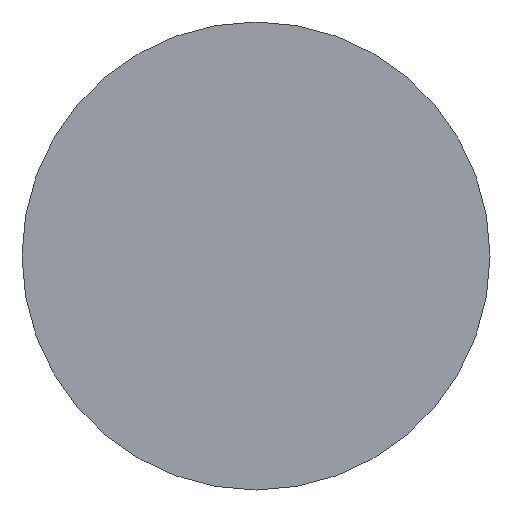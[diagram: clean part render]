
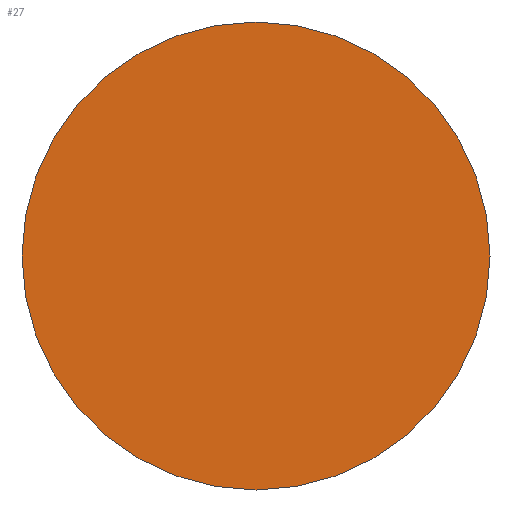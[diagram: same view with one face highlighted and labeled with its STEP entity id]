
A CAD part, front view. The second image highlights one B-rep face of the part: STEP entity #27.
In plain terms, the highlighted planar face has unit normal (0, -1, 0).
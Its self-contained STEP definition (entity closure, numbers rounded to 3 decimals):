
#2=CARTESIAN_POINT('',(-44.099,59.398,39.997));
#3=DIRECTION('',(0.0,-1.0,0.0));
#4=DIRECTION('',(0.0,0.0,-1.0));
#5=AXIS2_PLACEMENT_3D('',#2,#3,#4);
#6=PLANE('',#5);
#7=CARTESIAN_POINT('',(-24.101,59.398,0.0));
#8=VERTEX_POINT('',#7);
#9=CARTESIAN_POINT('',(15.897,59.398,0.0));
#10=VERTEX_POINT('',#9);
#11=CARTESIAN_POINT('',(-4.102,59.398,0.0));
#12=DIRECTION('',(0.0,-1.0,0.0));
#13=DIRECTION('',(-1.0,0.0,0.0));
#14=AXIS2_PLACEMENT_3D('',#11,#12,#13);
#15=CIRCLE('',#14,19.999);
#16=EDGE_CURVE('',#8,#10,#15,.T.);
#17=ORIENTED_EDGE('',*,*,#16,.T.);
#18=CARTESIAN_POINT('',(-4.102,59.398,0.0));
#19=DIRECTION('',(0.0,-1.0,0.0));
#20=DIRECTION('',(-1.0,0.0,0.0));
#21=AXIS2_PLACEMENT_3D('',#18,#19,#20);
#22=CIRCLE('',#21,19.999);
#23=EDGE_CURVE('',#10,#8,#22,.T.);
#24=ORIENTED_EDGE('',*,*,#23,.T.);
#25=EDGE_LOOP('',(#17,#24));
#26=FACE_OUTER_BOUND('',#25,.T.);
#27=ADVANCED_FACE('',(#26),#6,.T.);
